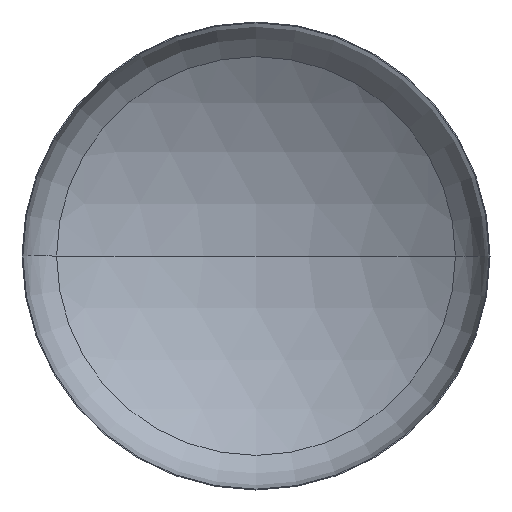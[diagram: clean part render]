
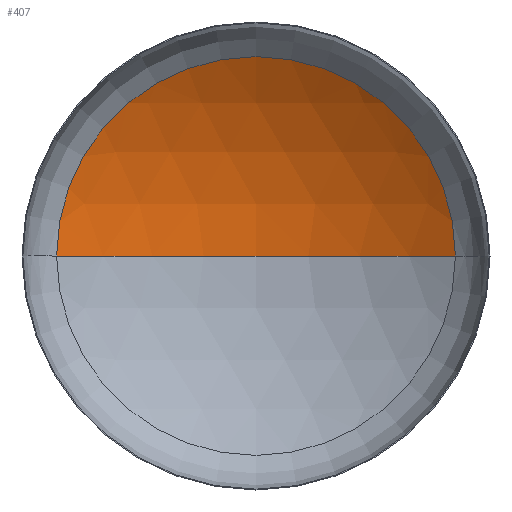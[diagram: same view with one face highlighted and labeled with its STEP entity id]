
A CAD part, front view. The second image highlights one B-rep face of the part: STEP entity #407.
In plain terms, the highlighted spherical face has radius 3600 mm.
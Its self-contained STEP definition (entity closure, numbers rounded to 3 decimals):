
#4 = SPHERICAL_SURFACE ( 'NONE', #221, 3600. ) ;
#25 = EDGE_LOOP ( 'NONE', ( #47, #50, #79 ) ) ;
#42 = VERTEX_POINT ( 'NONE', #225 ) ;
#47 = ORIENTED_EDGE ( 'NONE', *, *, #76, .F. ) ;
#50 = ORIENTED_EDGE ( 'NONE', *, *, #164, .T. ) ;
#76 = EDGE_CURVE ( 'NONE', #42, #260, #120, .T. ) ;
#79 = ORIENTED_EDGE ( 'NONE', *, *, #190, .T. ) ;
#82 = VERTEX_POINT ( 'NONE', #336 ) ;
#120 = CIRCLE ( 'NONE', #302, 3600. ) ;
#145 = CARTESIAN_POINT ( 'NONE',  ( -1917.108, 613.256, 0. ) ) ;
#148 = CIRCLE ( 'NONE', #406, 1917.108 ) ;
#164 = EDGE_CURVE ( 'NONE', #42, #82, #170, .T. ) ;
#165 = DIRECTION ( 'NONE',  ( -1., 0., 0. ) ) ;
#170 = CIRCLE ( 'NONE', #379, 3600. ) ;
#183 = DIRECTION ( 'NONE',  ( 0., 0., -1. ) ) ;
#184 = DIRECTION ( 'NONE',  ( 0., 0., -1. ) ) ;
#190 = EDGE_CURVE ( 'NONE', #82, #260, #148, .T. ) ;
#193 = DIRECTION ( 'NONE',  ( -1., 0., 0. ) ) ;
#205 = CARTESIAN_POINT ( 'NONE',  ( 0., -2433.824, 0. ) ) ;
#209 = DIRECTION ( 'NONE',  ( 1., 0., 0. ) ) ;
#212 = DIRECTION ( 'NONE',  ( 0., -1., 0. ) ) ;
#220 = CARTESIAN_POINT ( 'NONE',  ( 0., 613.256, 0. ) ) ;
#221 = AXIS2_PLACEMENT_3D ( 'NONE', #205, #184, #165 ) ;
#225 = CARTESIAN_POINT ( 'NONE',  ( 0., 1166.176, 0. ) ) ;
#260 = VERTEX_POINT ( 'NONE', #145 ) ;
#302 = AXIS2_PLACEMENT_3D ( 'NONE', #325, #323, #322 ) ;
#316 = CARTESIAN_POINT ( 'NONE',  ( 0., -2433.824, 0. ) ) ;
#322 = DIRECTION ( 'NONE',  ( 1., 0., 0. ) ) ;
#323 = DIRECTION ( 'NONE',  ( 0., 0., 1. ) ) ;
#325 = CARTESIAN_POINT ( 'NONE',  ( 0., -2433.824, 0. ) ) ;
#336 = CARTESIAN_POINT ( 'NONE',  ( 1917.108, 613.256, 0. ) ) ;
#358 = FACE_OUTER_BOUND ( 'NONE', #25, .T. ) ;
#379 = AXIS2_PLACEMENT_3D ( 'NONE', #316, #183, #193 ) ;
#406 = AXIS2_PLACEMENT_3D ( 'NONE', #220, #212, #209 ) ;
#407 = ADVANCED_FACE ( 'NONE', ( #358 ), #4, .F. ) ;
